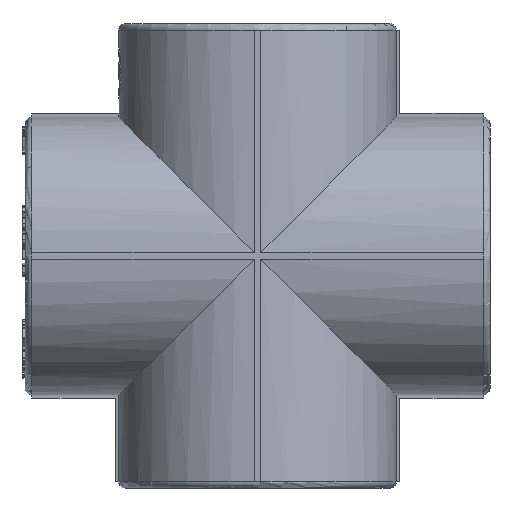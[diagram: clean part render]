
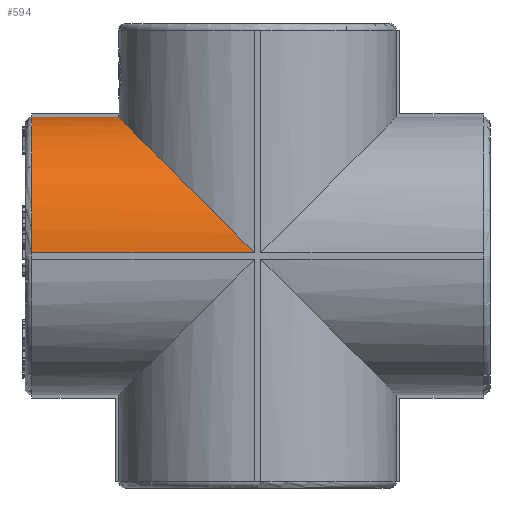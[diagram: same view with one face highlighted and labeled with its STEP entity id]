
A CAD part, left-side view. The second image highlights one B-rep face of the part: STEP entity #594.
In plain terms, the highlighted cylindrical face has radius 21.5 mm (diameter 43 mm), a partial arc.
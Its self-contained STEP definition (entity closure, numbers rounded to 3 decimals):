
#594=ADVANCED_FACE('',(#4662),#4664,.T.);
#4662=FACE_BOUND('',#4663,.T.);
#4663=EDGE_LOOP('',(#12347,#12348,#12349,#12350));
#4664=CYLINDRICAL_SURFACE('',#4665,21.5);
#4665=AXIS2_PLACEMENT_3D('',#4666,#4667,#4668);
#4666=CARTESIAN_POINT('',(0.,-36.,0.));
#4667=DIRECTION('',(0.,1.,0.));
#4668=DIRECTION('',(-1.,0.,0.));
#12347=ORIENTED_EDGE('',*,*,#17747,.F.);
#12348=ORIENTED_EDGE('',*,*,#17748,.T.);
#12349=ORIENTED_EDGE('',*,*,#17749,.F.);
#12350=ORIENTED_EDGE('',*,*,#17739,.F.);
#17739=EDGE_CURVE('',#21785,#21787,#21788,.T.);
#17747=EDGE_CURVE('',#21800,#21785,#21801,.T.);
#17748=EDGE_CURVE('',#21800,#21802,#21803,.F.);
#17749=EDGE_CURVE('',#21787,#21802,#21804,.F.);
#21785=VERTEX_POINT('',#29885);
#21787=VERTEX_POINT('',#29890);
#21788=CIRCLE('',#29891,21.5);
#21800=VERTEX_POINT('',#29923);
#21801=LINE('',#29924,#29925);
#21802=VERTEX_POINT('',#29927);
#21803=(BOUNDED_CURVE()B_SPLINE_CURVE(3,
(#29928,#29929,#29930,#29931),
.UNSPECIFIED.,.F.,.F.)B_SPLINE_CURVE_WITH_KNOTS((4,4),
(0.,1.),
.UNSPECIFIED.)CURVE()GEOMETRIC_REPRESENTATION_ITEM()RATIONAL_B_SPLINE_CURVE((1.,
0.816,0.816,1.))REPRESENTATION_ITEM(''));
#21804=LINE('',#29932,#29933);
#29885=CARTESIAN_POINT('',(-21.494,35.,0.5));
#29890=CARTESIAN_POINT('',(-0.5,35.,21.494));
#29891=AXIS2_PLACEMENT_3D('',#29892,#29893,#29894);
#29892=CARTESIAN_POINT('',(0.,35.,0.));
#29893=DIRECTION('',(0.,1.,0.));
#29894=DIRECTION('',(-1.,0.,0.023));
#29923=CARTESIAN_POINT('',(-21.494,0.5,0.5));
#29924=CARTESIAN_POINT('',(-21.494,0.5,0.5));
#29925=VECTOR('',#29926,1.);
#29926=DIRECTION('',(0.,1.,0.));
#29927=CARTESIAN_POINT('',(-0.5,21.494,21.494));
#29928=CARTESIAN_POINT('',(-0.5,21.494,21.494));
#29929=CARTESIAN_POINT('',(-12.631,21.212,21.212));
#29930=CARTESIAN_POINT('',(-21.212,12.631,12.631));
#29931=CARTESIAN_POINT('',(-21.494,0.5,0.5));
#29932=CARTESIAN_POINT('',(-0.5,21.494,21.494));
#29933=VECTOR('',#29934,1.);
#29934=DIRECTION('',(0.,1.,0.));
